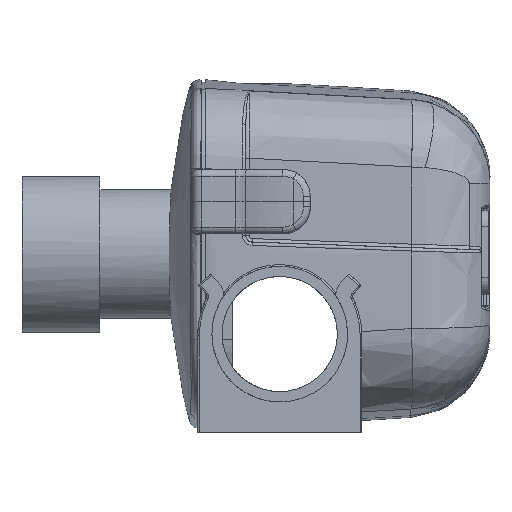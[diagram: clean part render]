
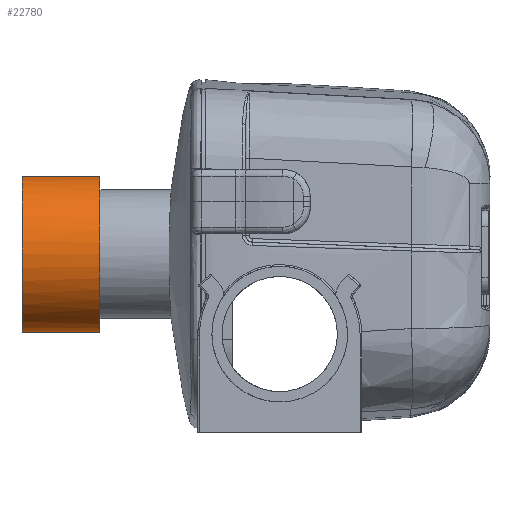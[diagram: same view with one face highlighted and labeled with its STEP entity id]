
A CAD part, left-side view. The second image highlights one B-rep face of the part: STEP entity #22780.
In plain terms, the highlighted cylindrical face has radius 23 mm (diameter 46 mm), a full revolution.
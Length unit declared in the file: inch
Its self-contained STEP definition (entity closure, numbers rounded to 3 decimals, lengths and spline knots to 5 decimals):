
#5884 = CARTESIAN_POINT ( 'NONE',  ( -0.41339, 2.08661, 0. ) ) ;
#6666 = CARTESIAN_POINT ( 'NONE',  ( -0.41339, 1.1811, 0. ) ) ;
#6703 = FACE_OUTER_BOUND ( 'NONE', #64748, .T. ) ;
#8286 = AXIS2_PLACEMENT_3D ( 'NONE', #6666, #41810, #11691 ) ;
#10968 = DIRECTION ( 'NONE',  ( 0., 0., -1. ) ) ;
#11691 = DIRECTION ( 'NONE',  ( 0., 0., -1. ) ) ;
#12152 = CYLINDRICAL_SURFACE ( 'NONE', #19669, 0.90551 ) ;
#15178 = VERTEX_POINT ( 'NONE', #28106 ) ;
#19669 = AXIS2_PLACEMENT_3D ( 'NONE', #61895, #61279, #63809 ) ;
#22780 = ADVANCED_FACE ( 'NONE', ( #58677, #6703 ), #12152, .T. ) ;
#27184 = CARTESIAN_POINT ( 'NONE',  ( 0.49213, 1.1811, 0. ) ) ;
#28106 = CARTESIAN_POINT ( 'NONE',  ( -0.41339, 2.08661, -0.90551 ) ) ;
#29045 = ORIENTED_EDGE ( 'NONE', *, *, #64137, .F. ) ;
#31495 = CIRCLE ( 'NONE', #8286, 0.90551 ) ;
#36998 = EDGE_CURVE ( 'NONE', #58825, #58825, #31495, .T. ) ;
#41037 = DIRECTION ( 'NONE',  ( 0., 1., 0. ) ) ;
#41810 = DIRECTION ( 'NONE',  ( 0., 1., 0. ) ) ;
#43693 = ORIENTED_EDGE ( 'NONE', *, *, #36998, .T. ) ;
#44259 = AXIS2_PLACEMENT_3D ( 'NONE', #5884, #41037, #10968 ) ;
#47940 = CIRCLE ( 'NONE', #44259, 0.90551 ) ;
#58677 = FACE_OUTER_BOUND ( 'NONE', #62144, .T. ) ;
#58825 = VERTEX_POINT ( 'NONE', #27184 ) ;
#61279 = DIRECTION ( 'NONE',  ( 0., -1., 0. ) ) ;
#61895 = CARTESIAN_POINT ( 'NONE',  ( -0.41339, 2.08661, 0. ) ) ;
#62144 = EDGE_LOOP ( 'NONE', ( #43693 ) ) ;
#63809 = DIRECTION ( 'NONE',  ( 0., 0., 1. ) ) ;
#64137 = EDGE_CURVE ( 'NONE', #15178, #15178, #47940, .T. ) ;
#64748 = EDGE_LOOP ( 'NONE', ( #29045 ) ) ;
